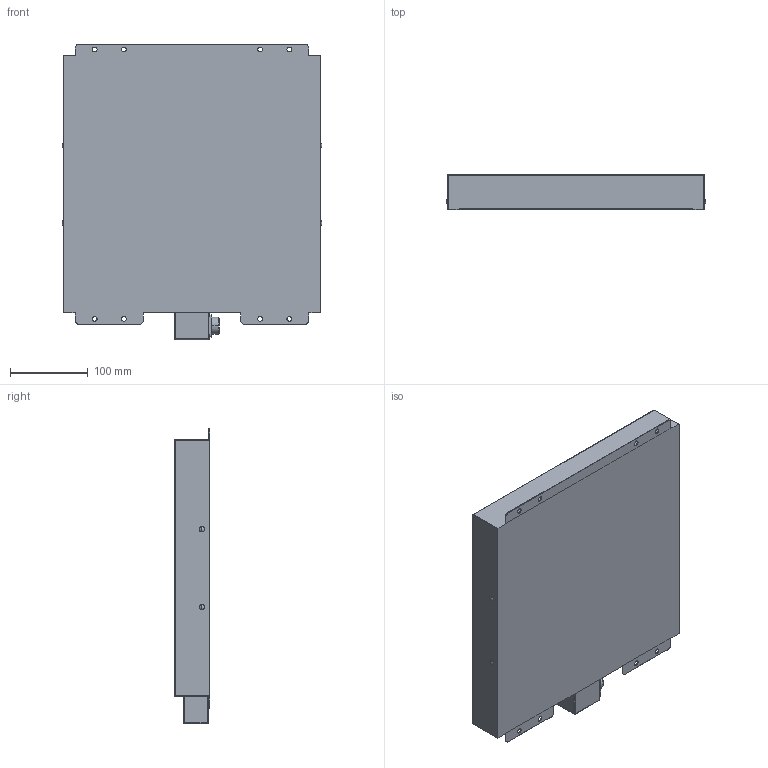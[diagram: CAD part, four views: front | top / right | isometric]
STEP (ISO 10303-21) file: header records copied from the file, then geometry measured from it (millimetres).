
FILE_DESCRIPTION (( 'STEP AP203' ), '1' );
FILE_NAME ('HDSBPA-300x300_-24.STEP', '2023-04-18T05:05:10', ( '' ), ( '' ), 'SwSTEP 2.0', 'SolidWorks 2022', '' );
FILE_SCHEMA (( 'CONFIG_CONTROL_DESIGN' ));
Length unit declared in the file: millimetre
Products named in the file (1): HDSBPA-300x300_-24
Bounding box: 333.8 x 45 x 380 mm (x, y, z)
Volume: 4871790.6 mm3; surface area: 298823.8 mm2
Topology: 1 solids, 1 shells, 122 faces, 314 edges, 186 vertices
Faces by surface type: cylinder 58, plane 42, sphere 20, cone 2
Entity records: 3601 total; most frequent: DIRECTION 658, CARTESIAN_POINT 587, ORIENTED_EDGE 572, EDGE_CURVE 286, AXIS2_PLACEMENT_3D 249, VERTEX_POINT 178, VECTOR 160, LINE 160
